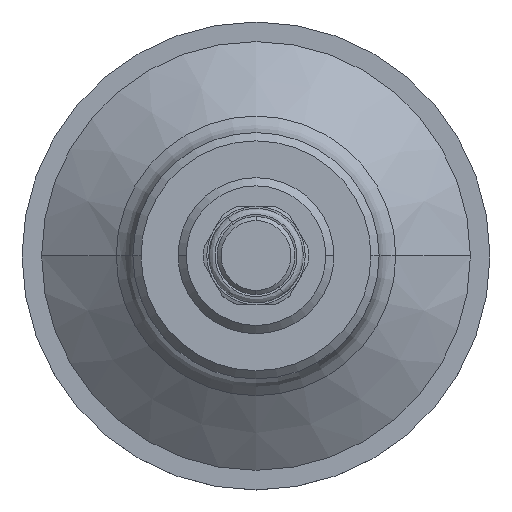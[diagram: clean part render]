
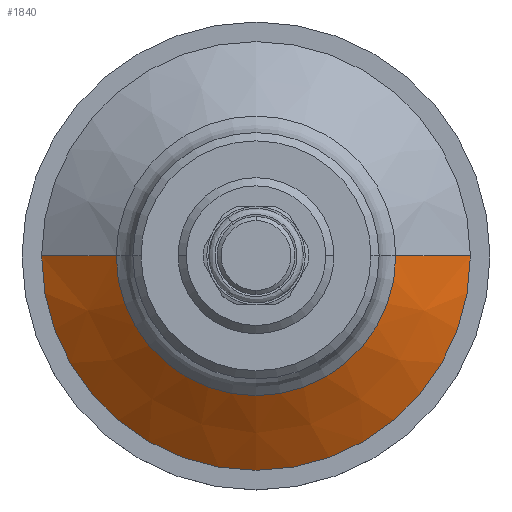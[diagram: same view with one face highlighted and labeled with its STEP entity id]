
A CAD part, top view. The second image highlights one B-rep face of the part: STEP entity #1840.
In plain terms, the highlighted conical face has half-angle 53.5 degrees and reference radius 17.026 mm.
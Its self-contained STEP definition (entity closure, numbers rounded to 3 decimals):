
#576 = EDGE_CURVE ( 'NONE', #4316, #3204, #2742, .T. ) ;
#642 = CIRCLE ( 'NONE', #923, 17.026 ) ;
#762 = ORIENTED_EDGE ( 'NONE', *, *, #1134, .F. ) ;
#774 = CARTESIAN_POINT ( 'NONE',  ( 4.775, -2.966, -32.513 ) ) ;
#858 = CARTESIAN_POINT ( 'NONE',  ( -38.362, -2.966, -25.79 ) ) ;
#923 = AXIS2_PLACEMENT_3D ( 'NONE', #1605, #2293, #2927 ) ;
#927 = EDGE_CURVE ( 'NONE', #1034, #3204, #2531, .T. ) ;
#1010 = DIRECTION ( 'NONE',  ( 1., 0., 0. ) ) ;
#1034 = VERTEX_POINT ( 'NONE', #3448 ) ;
#1134 = EDGE_CURVE ( 'NONE', #3641, #4316, #642, .T. ) ;
#1175 = CARTESIAN_POINT ( 'NONE',  ( -4.31, -2.966, -25.79 ) ) ;
#1413 = ORIENTED_EDGE ( 'NONE', *, *, #927, .T. ) ;
#1605 = CARTESIAN_POINT ( 'NONE',  ( -21.336, -2.966, -25.79 ) ) ;
#1650 = ORIENTED_EDGE ( 'NONE', *, *, #576, .F. ) ;
#1700 = CARTESIAN_POINT ( 'NONE',  ( -4.31, -2.966, -25.79 ) ) ;
#1705 = ORIENTED_EDGE ( 'NONE', *, *, #2022, .T. ) ;
#1739 = DIRECTION ( 'NONE',  ( 0.804, 0., -0.595 ) ) ;
#1840 = ADVANCED_FACE ( 'NONE', ( #3956 ), #2596, .T. ) ;
#2022 = EDGE_CURVE ( 'NONE', #3641, #1034, #2099, .T. ) ;
#2099 = LINE ( 'NONE', #858, #3020 ) ;
#2107 = AXIS2_PLACEMENT_3D ( 'NONE', #3044, #3333, #1010 ) ;
#2293 = DIRECTION ( 'NONE',  ( 0., 0., 1. ) ) ;
#2508 = CARTESIAN_POINT ( 'NONE',  ( -38.362, -2.966, -25.79 ) ) ;
#2531 = CIRCLE ( 'NONE', #2107, 26.112 ) ;
#2573 = CARTESIAN_POINT ( 'NONE',  ( -21.336, -2.966, -25.79 ) ) ;
#2596 = CONICAL_SURFACE ( 'NONE', #3651, 17.026, 0.934 ) ;
#2742 = LINE ( 'NONE', #1700, #3441 ) ;
#2927 = DIRECTION ( 'NONE',  ( 1., 0., 0. ) ) ;
#2944 = DIRECTION ( 'NONE',  ( -1., 0., 0. ) ) ;
#3020 = VECTOR ( 'NONE', #3510, 1000. ) ;
#3044 = CARTESIAN_POINT ( 'NONE',  ( -21.336, -2.966, -32.513 ) ) ;
#3204 = VERTEX_POINT ( 'NONE', #774 ) ;
#3260 = EDGE_LOOP ( 'NONE', ( #1650, #762, #1705, #1413 ) ) ;
#3333 = DIRECTION ( 'NONE',  ( 0., 0., 1. ) ) ;
#3441 = VECTOR ( 'NONE', #1739, 1000. ) ;
#3448 = CARTESIAN_POINT ( 'NONE',  ( -47.448, -2.966, -32.513 ) ) ;
#3510 = DIRECTION ( 'NONE',  ( -0.804, 0., -0.595 ) ) ;
#3641 = VERTEX_POINT ( 'NONE', #2508 ) ;
#3651 = AXIS2_PLACEMENT_3D ( 'NONE', #2573, #3915, #2944 ) ;
#3915 = DIRECTION ( 'NONE',  ( 0., 0., -1. ) ) ;
#3956 = FACE_OUTER_BOUND ( 'NONE', #3260, .T. ) ;
#4316 = VERTEX_POINT ( 'NONE', #1175 ) ;
